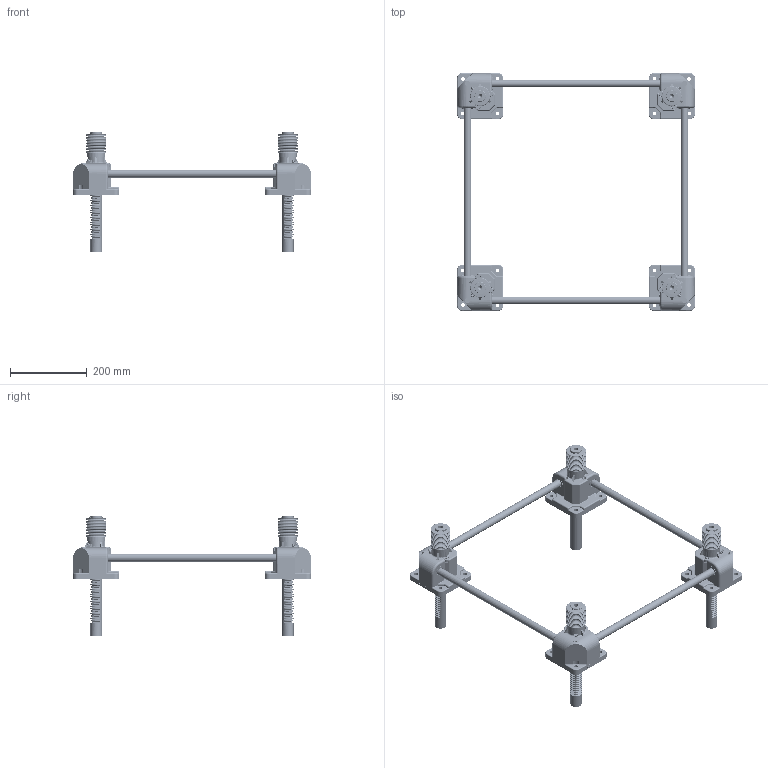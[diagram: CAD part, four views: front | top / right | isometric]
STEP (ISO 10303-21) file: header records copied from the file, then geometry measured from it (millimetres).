
FILE_DESCRIPTION(('STEP AP203'),'1');
FILE_NAME('SP900CJ-500x500-150ST.stp','2016-08-09T08:40:29',(' '),(' '),'Spatial InterOp 3D',' ',' ');
FILE_SCHEMA(('CONFIG_CONTROL_DESIGN'));
Length unit declared in the file: millimetre
Products named in the file (120): SP900CJ-500x500-150ST; SnapRing-28.8Pie; Rack Gear(SP-900C); Bellow(SP-900); Body.1-Part; Nipple; Bolt; Gear Box.1(Upper); Body_stand by; Gear Box.1(Lower); Mark.1; Part1.8; LOGO; RJ05-4SCJ-610X600-100ST_CAP; LABEL-B.1; ___; Body.2-Part; Gear Box.2(Upper); Gear Box.2(Lower); Body.3-Part; Gear Box.3(Upper); Gear Box.3(Lower); Body.4-Part; Gear Box.4(Upper); Gear Box.4(Lower); 파트51
Assembly tree (124 placements, depth 6):
  SP900CJ-500x500-150ST
    SnapRing-28.8Pie
    SnapRing-28.8Pie
    SnapRing-28.8Pie
    SnapRing-28.8Pie
    Rack Gear(SP-900C)  x4
    Bellow(SP-900)
    Bellow(SP-900)
    Bellow(SP-900)
    Bellow(SP-900)
    Body.1-Part
      Nipple
      Bolt
      Bolt
      Bolt
      Gear Box.1(Upper)
        Body_stand by
        Body_stand by
        Body_stand by
        Body_stand by
      Gear Box.1(Lower)
        Body_stand by
        Body_stand by
        Body_stand by
        Body_stand by
      LOGO
        Mark.1
          Part1.8
          Part1.8
          Part1.8
          Part1.8
          Part1.8
          Part1.8
          Part1.8
        ___
          RJ05-4SCJ-610X600-100ST_CAP
            LABEL-B.1
    Body.2-Part
      Nipple
      Bolt
      Bolt
      Bolt
      Gear Box.2(Upper)
        Body_stand by
        Body_stand by
        Body_stand by
        Body_stand by
      Gear Box.2(Lower)
        Body_stand by
        Body_stand by
        Body_stand by
        Body_stand by
      LOGO
        Mark.1
          Part1.8
          Part1.8
          Part1.8
          Part1.8
          Part1.8
          Part1.8
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Bounding box: 620.4 x 620.4 x 315 mm (x, y, z)
Volume: 1692057.6 mm3; surface area: 1127144.1 mm2
Topology: 68 solids, 3060 shells, 10956 faces, 38084 edges, 30200 vertices
Faces by surface type: plane 7708, cylinder 2196, torus 440, cone 264, bspline 184, sphere 100, extrusion 36, revolution 28
Full cylindrical faces by diameter (mm): 1.869 x8, 3.113 x4, 6 x4, 6.6 x4, 8 x12, 12 x4, 14 x12, 20 x4, 28.8 x4, 30 x64, 45 x4, 47 x4
Entity records: 409196 total; most frequent: CARTESIAN_POINT 121557, DIRECTION 55794, ORIENTED_EDGE 51808, EDGE_CURVE 33636, VERTEX_POINT 27651, VECTOR 24934, LINE 24898, AXIS2_PLACEMENT_3D 15416
